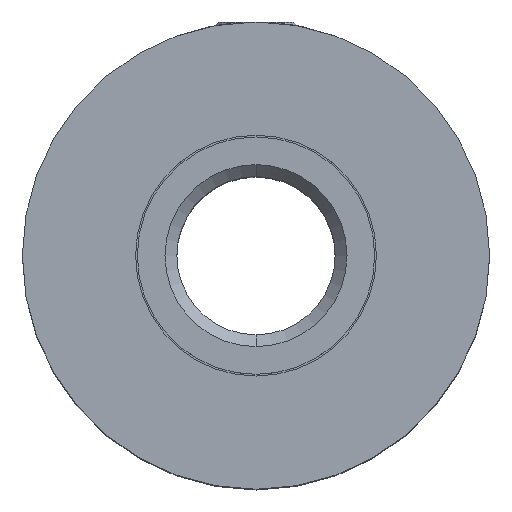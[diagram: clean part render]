
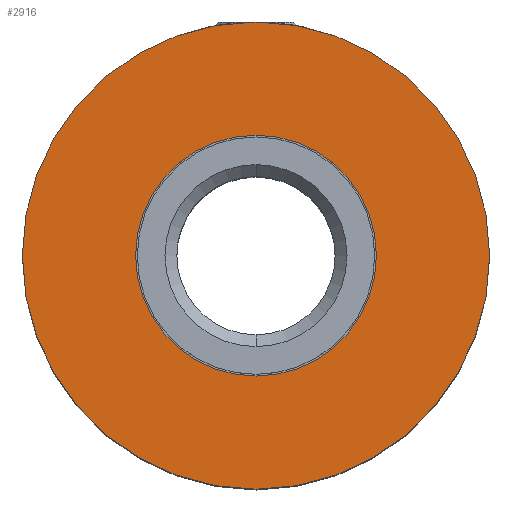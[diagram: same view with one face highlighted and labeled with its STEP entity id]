
A CAD part, top view. The second image highlights one B-rep face of the part: STEP entity #2916.
In plain terms, the highlighted planar face has unit normal (0, 0, 1).
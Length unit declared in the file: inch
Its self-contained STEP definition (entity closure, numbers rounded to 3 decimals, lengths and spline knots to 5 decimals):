
#1=CARTESIAN_POINT('',(0.,0.,0.23438));
#2=DIRECTION('',(0.,0.,1.));
#3=DIRECTION('',(0.,1.,0.));
#4=AXIS2_PLACEMENT_3D('',#1,#2,#3);
#6=CARTESIAN_POINT('',(0.,0.,0.23438));
#7=DIRECTION('',(0.,0.,-1.));
#8=DIRECTION('',(0.,1.,0.));
#9=AXIS2_PLACEMENT_3D('',#6,#7,#8);
#21=CARTESIAN_POINT('',(0.,0.,0.23438));
#22=DIRECTION('',(0.,0.,1.));
#23=DIRECTION('',(1.,0.,0.));
#24=AXIS2_PLACEMENT_3D('',#21,#22,#23);
#26=CARTESIAN_POINT('',(0.,0.,0.23438));
#27=DIRECTION('',(0.,0.,1.));
#28=DIRECTION('',(-1.,0.,0.));
#29=AXIS2_PLACEMENT_3D('',#26,#27,#28);
#2287=CARTESIAN_POINT('',(0.,0.2775,0.23438));
#2288=CARTESIAN_POINT('',(0.,-0.2775,0.23438));
#2289=VERTEX_POINT('',#2287);
#2290=VERTEX_POINT('',#2288);
#2827=CARTESIAN_POINT('',(0.143,0.,0.23438));
#2828=CARTESIAN_POINT('',(-0.143,0.,0.23438));
#2829=VERTEX_POINT('',#2827);
#2830=VERTEX_POINT('',#2828);
#2899=CARTESIAN_POINT('',(0.,0.,0.23438));
#2900=DIRECTION('',(0.,0.,-1.));
#2901=DIRECTION('',(0.,-1.,0.));
#2902=AXIS2_PLACEMENT_3D('',#2899,#2900,#2901);
#2903=PLANE('',#2902);
#2905=ORIENTED_EDGE('',*,*,#2904,.F.);
#2907=ORIENTED_EDGE('',*,*,#2906,.T.);
#2908=EDGE_LOOP('',(#2905,#2907));
#2909=FACE_OUTER_BOUND('',#2908,.F.);
#2911=ORIENTED_EDGE('',*,*,#2910,.T.);
#2913=ORIENTED_EDGE('',*,*,#2912,.T.);
#2914=EDGE_LOOP('',(#2911,#2913));
#2915=FACE_BOUND('',#2914,.F.);
#2916=ADVANCED_FACE('',(#2909,#2915),#2903,.F.);
#5=CIRCLE('',#4,0.2775);
#10=CIRCLE('',#9,0.2775);
#25=CIRCLE('',#24,0.143);
#30=CIRCLE('',#29,0.143);
#2904=EDGE_CURVE('',#2289,#2290,#5,.T.);
#2906=EDGE_CURVE('',#2289,#2290,#10,.T.);
#2910=EDGE_CURVE('',#2829,#2830,#25,.T.);
#2912=EDGE_CURVE('',#2830,#2829,#30,.T.);
